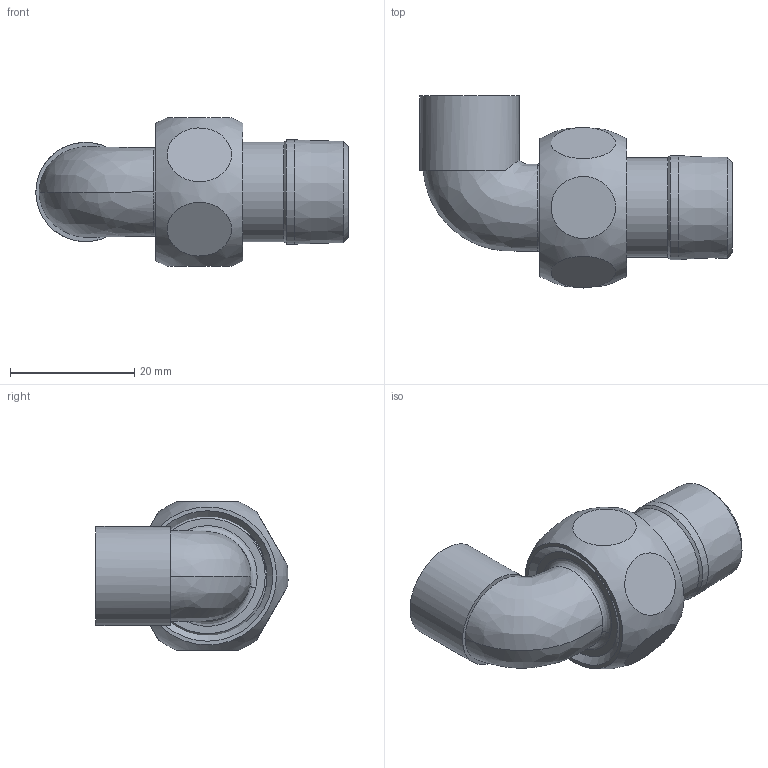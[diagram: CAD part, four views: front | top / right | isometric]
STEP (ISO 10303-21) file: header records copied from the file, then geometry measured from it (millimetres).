
FILE_DESCRIPTION((''),'2;1');
FILE_NAME('C:\Users\gomulka\Desktop\Lohse\140981238\140981238.stp','2014-08-28T10:42:49',('gomulka'),(''),'Autodesk Inventor 2009','Autodesk Inventor 2009','');
FILE_SCHEMA(('AUTOMOTIVE_DESIGN { 1 0 10303 214 1 1 1 1 }'));
Length unit declared in the file: millimetre
Products named in the file (4): 140981238; 1E4098G1212; 14382_38-12(2); 14374_12(2)
Assembly tree (3 placements, depth 2):
  140981238
    1E4098G1212
    14382_38-12(2)
    14374_12(2)
Bounding box: 50.36 x 30.98 x 24 mm (x, y, z)
Volume: 9865.2 mm3; surface area: 8247.9 mm2
Topology: 3 solids, 3 shells, 58 faces, 126 edges, 85 vertices
Faces by surface type: plane 24, cone 14, bspline 10, cylinder 10
Full cylindrical faces by diameter (mm): 11 x1, 12 x1, 15 x1, 16 x2, 16.806 x1, 16.9 x1, 18.5 x1, 18.63 x1
Entity records: 4341 total; most frequent: CARTESIAN_POINT 3158, ORIENTED_EDGE 212, DIRECTION 192, EDGE_CURVE 106, EDGE_LOOP 94, AXIS2_PLACEMENT_3D 93, VERTEX_POINT 84, FACE_OUTER_BOUND 58
